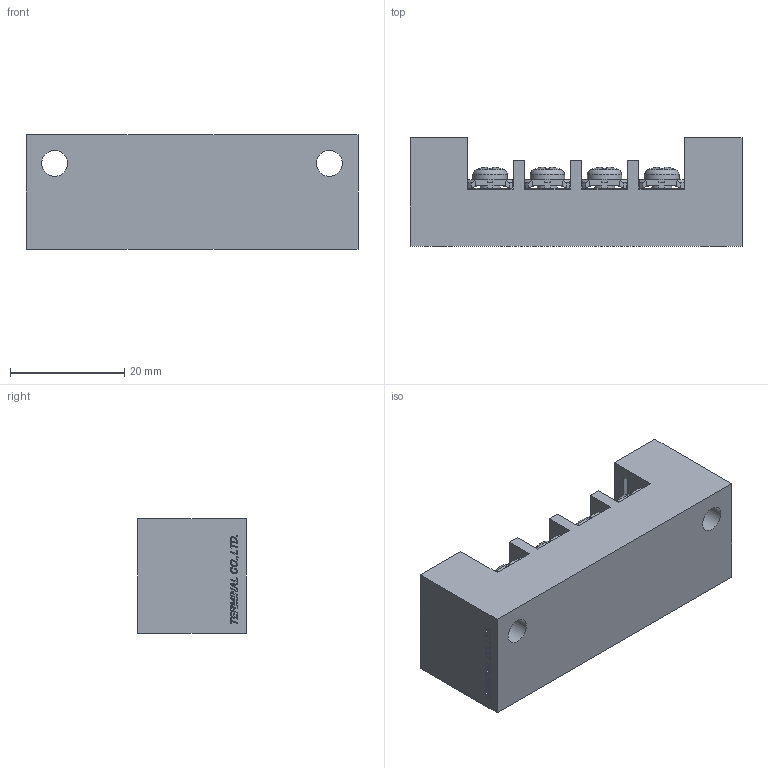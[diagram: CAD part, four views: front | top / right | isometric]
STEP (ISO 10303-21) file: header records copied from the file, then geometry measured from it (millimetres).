
FILE_DESCRIPTION(/* description */ ('Alibre Inc.'),/* implementation_level */ '2;1');
FILE_NAME(/* name */ 'export0',/* time_stamp */ '2016-02-13T17:50:07+09:00',/* author */ (''),/* organization */ (''),/* preprocessor_version */ 'ST-DEVELOPER v14',/* originating_system */ 'Alibre',/* authorisation */ '');
FILE_SCHEMA (('CONFIG_CONTROL_DESIGN'));
Length unit declared in the file: centimetre
Products named in the file (1): ID_1
Bounding box: 58 x 19 x 20 mm (x, y, z)
Volume: 15533.6 mm3; surface area: 8090.5 mm2
Topology: 1 solids, 9 shells, 951 faces, 2565 edges, 1630 vertices
Faces by surface type: plane 647, bspline 180, cone 40, extrusion 32, cylinder 28, sphere 16, torus 8
Full cylindrical faces by diameter (mm): 3.5 x16, 4.5 x2, 6 x8, 7 x2
Entity records: 33413 total; most frequent: CARTESIAN_POINT 12116, ORIENTED_EDGE 5010, DIRECTION 3043, EDGE_CURVE 2505, VECTOR 1738, LINE 1722, VERTEX_POINT 1614, EDGE_LOOP 1069
